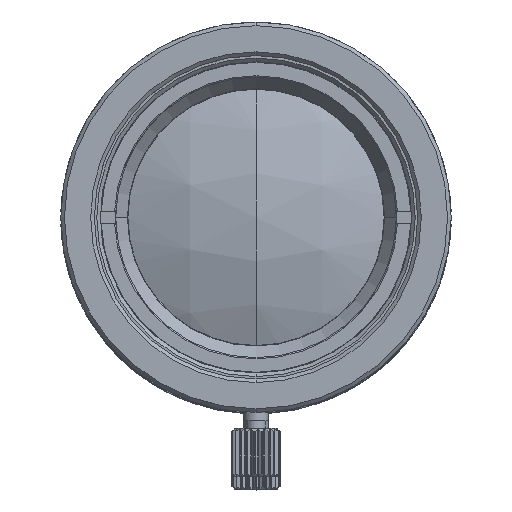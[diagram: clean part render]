
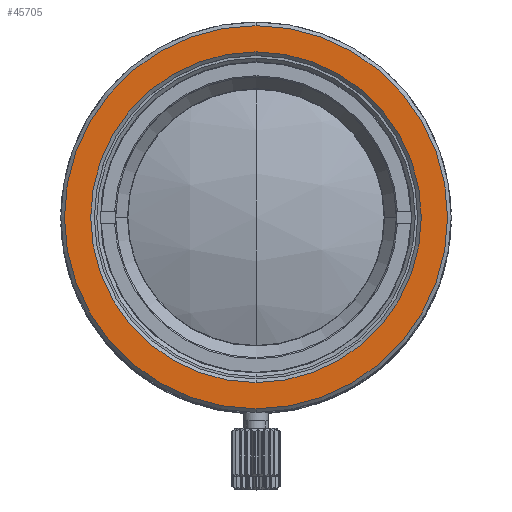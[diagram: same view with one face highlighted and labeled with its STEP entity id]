
A CAD part, top view. The second image highlights one B-rep face of the part: STEP entity #45705.
In plain terms, the highlighted planar face has unit normal (0, 0, 1).
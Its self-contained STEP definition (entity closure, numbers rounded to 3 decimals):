
#840 = AXIS2_PLACEMENT_3D ( 'NONE', #48259, #6001, #13795 ) ;
#1100 = VERTEX_POINT ( 'NONE', #8493 ) ;
#2290 = CARTESIAN_POINT ( 'NONE',  ( 0., 0., 36.2 ) ) ;
#2606 = CARTESIAN_POINT ( 'NONE',  ( 0., 0., 36.2 ) ) ;
#2867 = DIRECTION ( 'NONE',  ( 0., -1., 0. ) ) ;
#3533 = ORIENTED_EDGE ( 'NONE', *, *, #45794, .T. ) ;
#3985 = EDGE_CURVE ( 'NONE', #1100, #13340, #42625, .T. ) ;
#5080 = VERTEX_POINT ( 'NONE', #5510 ) ;
#5096 = ORIENTED_EDGE ( 'NONE', *, *, #40181, .T. ) ;
#5510 = CARTESIAN_POINT ( 'NONE',  ( 0., 13.55, 36.2 ) ) ;
#5635 = FACE_BOUND ( 'NONE', #19106, .T. ) ;
#6001 = DIRECTION ( 'NONE',  ( 0., 0., 1. ) ) ;
#6043 = VERTEX_POINT ( 'NONE', #18304 ) ;
#8493 = CARTESIAN_POINT ( 'NONE',  ( 0., 15.7, 36.2 ) ) ;
#9514 = DIRECTION ( 'NONE',  ( 0., 0., -1. ) ) ;
#9765 = CARTESIAN_POINT ( 'NONE',  ( 0., 0., 36.2 ) ) ;
#10166 = DIRECTION ( 'NONE',  ( 0., 0., 1. ) ) ;
#10514 = DIRECTION ( 'NONE',  ( 0., -1., 0. ) ) ;
#13089 = EDGE_CURVE ( 'NONE', #6043, #5080, #16373, .T. ) ;
#13340 = VERTEX_POINT ( 'NONE', #38188 ) ;
#13465 = EDGE_LOOP ( 'NONE', ( #20265, #3533 ) ) ;
#13795 = DIRECTION ( 'NONE',  ( 0., -1., 0. ) ) ;
#16373 = CIRCLE ( 'NONE', #28392, 13.55 ) ;
#16952 = PLANE ( 'NONE',  #38006 ) ;
#18205 = DIRECTION ( 'NONE',  ( 0., 0., 1. ) ) ;
#18304 = CARTESIAN_POINT ( 'NONE',  ( 0., -13.55, 36.2 ) ) ;
#19106 = EDGE_LOOP ( 'NONE', ( #45783, #5096 ) ) ;
#20265 = ORIENTED_EDGE ( 'NONE', *, *, #3985, .T. ) ;
#20729 = FACE_OUTER_BOUND ( 'NONE', #13465, .T. ) ;
#24505 = CARTESIAN_POINT ( 'NONE',  ( 0., 16., 36.2 ) ) ;
#24764 = AXIS2_PLACEMENT_3D ( 'NONE', #9765, #9514, #10514 ) ;
#28392 = AXIS2_PLACEMENT_3D ( 'NONE', #2290, #44316, #32985 ) ;
#29970 = AXIS2_PLACEMENT_3D ( 'NONE', #2606, #18205, #2867 ) ;
#32790 = DIRECTION ( 'NONE',  ( 0., -1., 0. ) ) ;
#32985 = DIRECTION ( 'NONE',  ( 0., -1., 0. ) ) ;
#34760 = CIRCLE ( 'NONE', #29970, 15.7 ) ;
#38006 = AXIS2_PLACEMENT_3D ( 'NONE', #24505, #10166, #32790 ) ;
#38188 = CARTESIAN_POINT ( 'NONE',  ( 0., -15.7, 36.2 ) ) ;
#40019 = CIRCLE ( 'NONE', #24764, 13.55 ) ;
#40181 = EDGE_CURVE ( 'NONE', #5080, #6043, #40019, .T. ) ;
#42625 = CIRCLE ( 'NONE', #840, 15.7 ) ;
#44316 = DIRECTION ( 'NONE',  ( 0., 0., -1. ) ) ;
#45705 = ADVANCED_FACE ( 'NONE', ( #5635, #20729 ), #16952, .T. ) ;
#45783 = ORIENTED_EDGE ( 'NONE', *, *, #13089, .T. ) ;
#45794 = EDGE_CURVE ( 'NONE', #13340, #1100, #34760, .T. ) ;
#48259 = CARTESIAN_POINT ( 'NONE',  ( 0., 0., 36.2 ) ) ;
